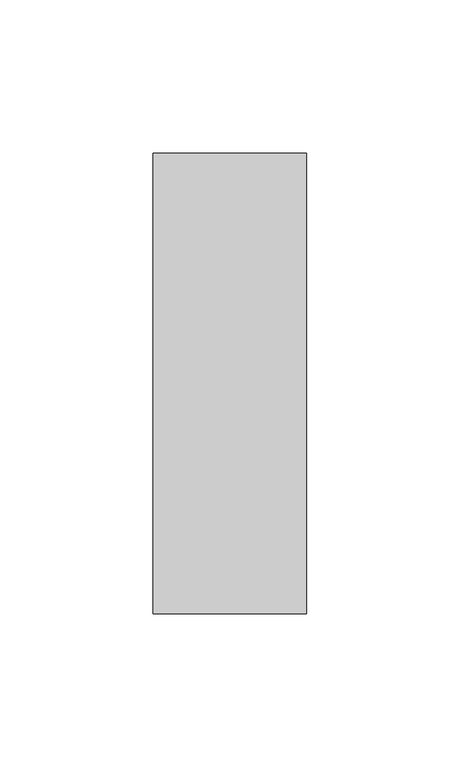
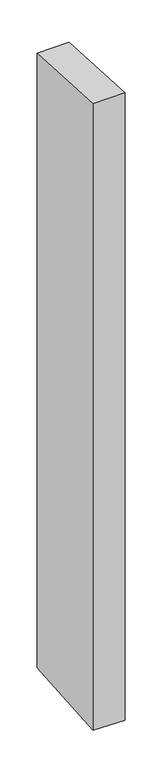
"""IFC4 building model written with IfcOpenShell, lengths in millimetres: member geometry, Прямоугольный импост : 50 x 150 мм."""

from ifc_helpers import new_model, si_unit, origin, place, context, project, spatial, faceted_brep, source, transform, mapped, element, save


def member_d26b5bae(model_context):
    return source(origin(), model_context, "Body", "Brep", [
        faceted_brep([(-25.0, 75.0, -4.4466505), (25.0, 75.0, -3.5829865), (25.0, 75.0, -1013.1931803), (-25.0, 75.0, -1012.3842088), (-25.0, -75.0, 3.5829865), (-25.0, -75.0, -1024.2936103), (25.0, -75.0, 4.4466505), (25.0, -75.0, -1025.1025818)], [[[0, 1, 2, 3]], [[4, 0, 3, 5]], [[6, 4, 5, 7]], [[1, 6, 7, 2]], [[1, 0, 4, 6]], [[2, 7, 5, 3]]]),
    ])


if __name__ == "__main__":
    model = new_model("IFC4")
    model_context = context("Model", 3, world=origin())
    ifc_project = project(units=[si_unit("LENGTHUNIT", "METRE", prefix="MILLI")], contexts=[model_context])
    site = spatial("IfcSite", under=ifc_project)
    building = spatial("IfcBuilding", under=site)
    placement = place(None, origin())
    member_shape = member_d26b5bae(model_context)
    element("IfcMember", 1, ObjectType="Прямоугольный импост : 50 x 150 мм", at=placement, inside=building, context=model_context, shape_type="MappedRepresentation", body=[
        mapped(member_shape, transform((0.0, 0.0, 0.0), x_axis=(1.0, 0.0, 0.0), y_axis=(0.0, 1.0, 0.0), z_axis=(0.0, 0.0, 1.0))),
    ])
    save(model, "model.ifc")
